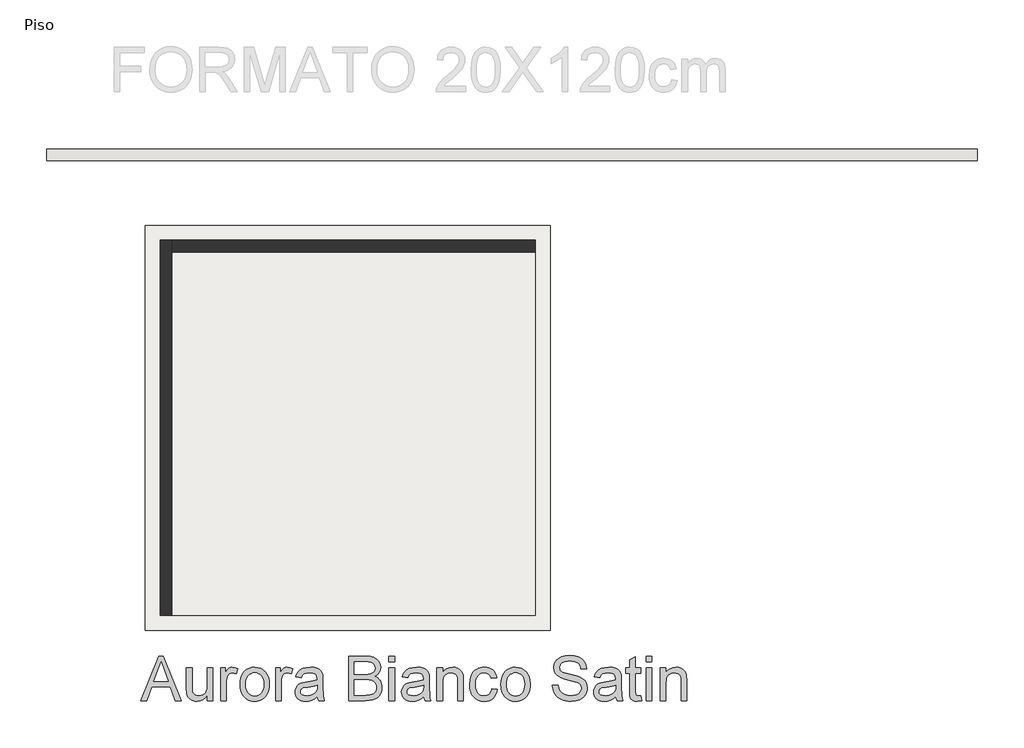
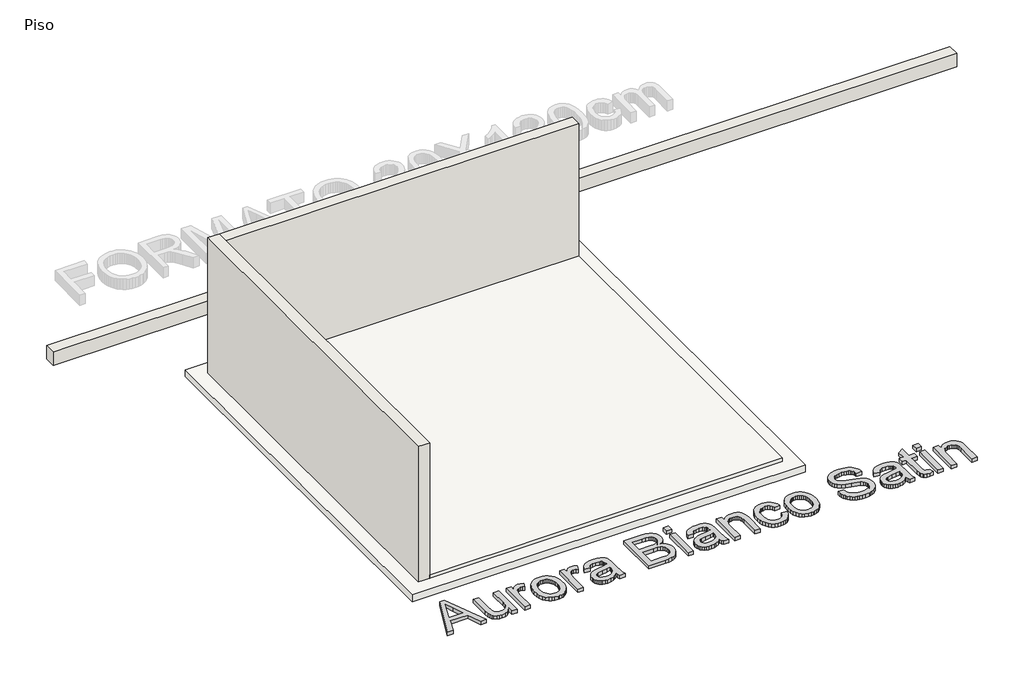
# One storey, part 1 of 2: 3 walls, 2 slabs, 1 proxy.
"""IFC4 building model written with IfcOpenShell, lengths in millimetres."""

from ifc_helpers import new_model, si_unit, frame, origin, origin_with_axes, place, context, project, spatial, polyline, outline, extrude, faceted_brep, element, save

model = new_model("IFC4")

# Units and contexts
model_context = context("Model", 3, world=origin())
ifc_project = project(units=[si_unit("LENGTHUNIT", "METRE", prefix="MILLI")], contexts=[model_context])

# Site, building, storey
site = spatial("IfcSite", under=ifc_project)
building = spatial("IfcBuilding", under=site)
storey = spatial("IfcBuildingStorey", under=building, Name="Piso", Elevation=0.0)

# Proxy
placement = place(None, origin())
element("IfcBuildingElementProxy", 1, Name="600mm Arial", ObjectType="600mm Arial", at=placement, inside=storey, context=model_context, shape_type="SweptSolid", body=[
    extrude(outline(polyline([(192663.9993038, -5545.0208617), (192904.5941286, -4942.2830008), (192968.7527486, -4942.2830008), (193209.3475734, -5545.0208617), (193129.7379097, -5545.0208617), (193060.7232474, -5356.6652802), (192812.476477, -5356.6652802), (192743.6089675, -5545.0208617), (192663.9993038, -5545.0208617)]), holes=[polyline([(192840.1412031, -5281.3230475), (193033.2056742, -5281.3230475), (192978.9062917, -5133.1401799), (192936.6734386, -5017.6252334), (192899.1494751, -5120.1907337), (192840.1412031, -5281.3230475)])]), origin_with_axes(), (0.0, 0.0, 1.0), 50.0),
    extrude(outline(polyline([(193562.9557472, -5545.0208617), (193562.9557472, -5468.9428651), (193535.6956914, -5506.3472669), (193503.9474752, -5533.0646968), (193467.7110987, -5549.0951548), (193426.9865618, -5554.4386408), (193390.2903328, -5550.6862444), (193356.1324895, -5539.4290554), (193327.4744821, -5522.5064836), (193307.2777606, -5501.757939), (193293.6845208, -5476.5580224), (193284.8369589, -5446.2813342), (193280.4223749, -5376.2366023), (193280.4223749, -5102.3852451), (193355.7646075, -5102.3852451), (193355.7646075, -5340.772778), (193356.9050417, -5388.4502845), (193360.3263443, -5417.5865386), (193371.3076218, -5443.2095195), (193390.1247859, -5462.6888712), (193415.5270376, -5474.9945239), (193446.2635783, -5479.0964081), (193478.7659526, -5474.9025534), (193509.1713995, -5462.3209892), (193534.2425575, -5442.5105437), (193550.742065, -5416.6300454), (193559.9023266, -5381.1846151), (193562.9557472, -5332.6793741), (193562.9557472, -5102.3852451), (193638.2979798, -5102.3852451), (193638.2979798, -5545.0208617), (193562.9557472, -5545.0208617)])), origin_with_axes(), (0.0, 0.0, 1.0), 50.0),
    extrude(outline(polyline([(193741.8935497, -5545.0208617), (193741.8935497, -5102.3852451), (193807.8180032, -5102.3852451), (193807.8180032, -5167.8682402), (193832.1717913, -5129.9028183), (193854.612593, -5107.535593), (193877.1269711, -5096.6094978), (193901.7014884, -5092.967466), (193939.2254519, -5098.7800015), (193977.3380266, -5116.2176081), (193952.1748981, -5183.7607424), (193925.6873944, -5172.1724596), (193899.1998908, -5168.3096986), (193876.7039068, -5172.0253068), (193856.5991558, -5183.1721312), (193840.3571657, -5200.9040434), (193829.4494645, -5224.3749147), (193820.2892028, -5266.4606149), (193817.2357823, -5312.3722879), (193817.2357823, -5545.0208617), (193741.8935497, -5545.0208617)])), origin_with_axes(), (0.0, 0.0, 1.0), 50.0),
    extrude(outline(polyline([(194005.5913638, -5323.7030534), (194009.6656569, -5266.3778415), (194021.8885362, -5216.9804866), (194042.2600017, -5175.5109887), (194070.7800533, -5141.9693478), (194099.4932431, -5120.5310245), (194131.186277, -5105.2179364), (194165.859155, -5096.0300836), (194203.5118772, -5092.967466), (194245.0779441, -5096.6968697), (194282.6616885, -5107.8850809), (194316.2631102, -5126.5320995), (194345.8822093, -5152.6379256), (194370.0566549, -5185.3196424), (194387.3241161, -5223.694333), (194397.6845928, -5267.7619975), (194401.138085, -5317.5226359), (194399.6113747, -5357.8516996), (194395.0312439, -5393.6374207), (194387.3976925, -5424.8797991), (194376.7107205, -5451.5788349), (194363.1036852, -5474.6404375), (194346.7099438, -5494.9705162), (194327.5294963, -5512.5690712), (194305.5623427, -5527.4361023), (194281.6638086, -5539.2497129), (194256.6892196, -5547.6880061), (194230.6385758, -5552.7509821), (194203.5118772, -5554.4386408), (194161.338805, -5550.7230326), (194123.4055728, -5539.5762082), (194089.7121805, -5520.9981674), (194060.2586283, -5494.9889103), (194036.3417001, -5461.9898954), (194019.2581799, -5422.4425809), (194009.0080678, -5376.3469669), (194005.5913638, -5323.7030534)]), holes=[polyline([(194080.9335964, -5323.5559006), (194083.1132972, -5360.1003783), (194089.6523997, -5391.7428284), (194100.5509038, -5418.4832509), (194115.8088096, -5440.3216459), (194134.3684562, -5457.2856044), (194155.172183, -5469.4027176), (194178.21999, -5476.6729855), (194203.5118772, -5479.0964081), (194228.6750057, -5476.6591899), (194251.6308422, -5469.3475353), (194272.3793867, -5457.1614442), (194290.9206393, -5440.1009167), (194306.178545, -5418.046391), (194317.0770491, -5390.8783057), (194323.6161516, -5358.5966606), (194325.7958524, -5321.2014558), (194323.602356, -5285.8158064), (194317.0218668, -5255.0010908), (194306.0543848, -5228.757309), (194290.6999101, -5207.0844609), (194272.0896796, -5190.1205024), (194251.3549307, -5178.0033892), (194228.4956632, -5170.7331213), (194203.5118772, -5168.3096986), (194178.21999, -5170.7239242), (194155.172183, -5177.966601), (194134.3684562, -5190.037729), (194115.8088096, -5206.9373081), (194100.5509038, -5228.7113237), (194089.6523997, -5255.405761), (194083.1132972, -5287.0206199), (194080.9335964, -5323.5559006)])]), origin_with_axes(), (0.0, 0.0, 1.0), 50.0),
    extrude(outline(polyline([(194485.8980967, -5545.0208617), (194485.8980967, -5102.3852451), (194551.8225502, -5102.3852451), (194551.8225502, -5167.8682402), (194576.1763383, -5129.9028183), (194598.61714, -5107.535593), (194621.1315181, -5096.6094978), (194645.7060354, -5092.967466), (194683.2299989, -5098.7800015), (194721.3425736, -5116.2176081), (194696.1794451, -5183.7607424), (194669.6919415, -5172.1724596), (194643.2044378, -5168.3096986), (194620.7084538, -5172.0253068), (194600.6037028, -5183.1721312), (194584.3617127, -5200.9040434), (194573.4540116, -5224.3749147), (194564.2937499, -5266.4606149), (194561.2403293, -5312.3722879), (194561.2403293, -5545.0208617), (194485.8980967, -5545.0208617)])), origin_with_axes(), (0.0, 0.0, 1.0), 50.0),
    extrude(outline(polyline([(195050.9648413, -5488.5141872), (195014.9675881, -5519.3794866), (194977.9034771, -5539.5762082), (194938.9263797, -5550.7230326), (194897.1901673, -5554.4386408), (194863.6439279, -5552.2037576), (194834.2271638, -5545.4991083), (194808.9398752, -5534.3246927), (194787.7820619, -5518.6805108), (194771.0756208, -5499.5598441), (194759.1424486, -5477.955974), (194751.9825453, -5453.8689003), (194749.5959108, -5427.2986232), (194753.2011544, -5396.0654418), (194764.0168851, -5367.70174), (194780.7003335, -5343.4215283), (194801.9087306, -5324.4388174), (194826.8327357, -5310.0914196), (194854.6630087, -5299.7171473), (194919.8516982, -5288.3863818), (194996.886188, -5276.4670052), (195050.5233829, -5262.4874894), (195050.9648413, -5245.7120704), (195045.7777052, -5212.087656), (195039.293785, -5199.6348505), (195030.2162968, -5190.0883127), (195014.5261297, -5180.5601691), (194995.41466, -5173.7543521), (194946.9278131, -5168.3096986), (194902.0462096, -5171.9333363), (194870.7026637, -5182.8042492), (194849.3287197, -5202.9090003), (194834.3559225, -5234.2341522), (194759.0136899, -5224.8163731), (194772.0918949, -5183.6135896), (194791.6080347, -5151.239974), (194819.3831253, -5126.4815158), (194857.2381826, -5108.1242042), (194903.5361317, -5096.7566506), (194956.6398977, -5092.967466), (195007.57316, -5096.3151922), (195047.9482089, -5106.3583706), (195078.390444, -5121.4599265), (195099.5252647, -5139.982785), (195113.5415687, -5162.8834392), (195122.628254, -5191.1183823), (195126.3070739, -5257.0428359), (195126.3070739, -5350.7791682), (195130.1330467, -5481.6715821), (195135.7984294, -5514.0268036), (195145.1426321, -5545.0208617), (195069.8003994, -5545.0208617), (195057.73387, -5518.8276636), (195050.9648413, -5488.5141872)]), holes=[polyline([(195050.9648413, -5337.829722), (195000.3442788, -5350.374498), (194929.4166301, -5360.9327113), (194864.5958225, -5373.1463935), (194847.7284331, -5381.4973148), (194835.2388393, -5393.0120213), (194827.5133174, -5406.8075961), (194824.9381435, -5422.0011225), (194830.5483439, -5444.405136), (194847.3789452, -5462.7624476), (194875.0620653, -5475.012918), (194913.2298223, -5479.0964081), (194953.6968418, -5474.5898537), (194989.4549717, -5461.0701904), (195018.4440729, -5441.1493803), (195038.6040063, -5417.4393858), (195047.5435387, -5393.0120213), (195050.5233829, -5359.1668777), (195050.9648413, -5337.829722)])]), origin_with_axes(), (0.0, 0.0, 1.0), 50.0),
    extrude(outline(polyline([(195474.7648997, -5545.0208617), (195474.7648997, -4942.2830008), (195704.7647231, -4942.2830008), (195768.0220322, -4946.7159788), (195817.41019, -4960.014913), (195837.4873499, -4970.071887), (195855.2652474, -4982.510897), (195870.7438823, -4997.3319428), (195883.9232548, -5014.5350246), (195901.9678666, -5052.2061409), (195907.9827373, -5091.6430908), (195902.9243598, -5127.9346497), (195887.7492275, -5162.0557047), (195862.3469758, -5191.9093286), (195826.6072399, -5215.398594), (195849.3469458, -5225.0922846), (195869.2999455, -5237.6922429), (195886.4662391, -5253.198469), (195900.8458266, -5271.6109629), (195912.2087817, -5292.3687044), (195920.3251782, -5314.9106737), (195925.1950161, -5339.2368706), (195926.8182954, -5365.3472952), (195922.3853174, -5407.3778132), (195909.0863832, -5446.3549106), (195889.2391496, -5479.5010783), (195865.161273, -5504.0388074), (195835.6755311, -5521.8075078), (195799.6047015, -5534.6465894), (195755.7715618, -5542.4272936), (195702.9988895, -5545.0208617), (195474.7648997, -5545.0208617)]), holes=[polyline([(195550.1071324, -5187.1452568), (195687.6949985, -5187.1452568), (195735.8139635, -5185.526576), (195768.0404263, -5180.6705337), (195796.1650048, -5169.5053151), (195816.3801205, -5152.7850784), (195828.5754086, -5130.767341), (195832.6405046, -5103.7096203), (195828.8513201, -5077.4428458), (195817.4837664, -5054.5605857), (195799.0528785, -5036.6999148), (195774.073691, -5025.4979081), (195735.7403871, -5019.5934021), (195677.2471499, -5017.6252334), (195550.1071324, -5017.6252334), (195550.1071324, -5187.1452568)]), polyline([(195550.1071324, -5469.6786291), (195704.6175703, -5469.6786291), (195760.5356336, -5466.7355731), (195786.4897084, -5460.2056677), (195807.8452582, -5450.3280361), (195825.2092883, -5436.1829734), (195839.1888042, -5416.8507746), (195848.4042481, -5393.1959623), (195851.4760628, -5366.0830592), (195847.8708192, -5334.5923604), (195837.0550886, -5307.5162456), (195818.1643481, -5286.3446368), (195790.3340752, -5272.5674561), (195750.9155194, -5265.0074811), (195697.2599304, -5262.4874894), (195550.1071324, -5262.4874894), (195550.1071324, -5469.6786291)])]), origin_with_axes(), (0.0, 0.0, 1.0), 50.0),
    extrude(outline(polyline([(196020.9960862, -5017.6252334), (196020.9960862, -4942.2830008), (196096.3383188, -4942.2830008), (196096.3383188, -5017.6252334), (196020.9960862, -5017.6252334)])), origin_with_axes(), (0.0, 0.0, 1.0), 50.0),
    extrude(outline(polyline([(196020.9960862, -5545.0208617), (196020.9960862, -5102.3852451), (196096.3383188, -5102.3852451), (196096.3383188, -5545.0208617), (196020.9960862, -5545.0208617)])), origin_with_axes(), (0.0, 0.0, 1.0), 50.0),
    extrude(outline(polyline([(196491.88504, -5488.5141872), (196455.8877868, -5519.3794866), (196418.8236758, -5539.5762082), (196379.8465784, -5550.7230326), (196338.110366, -5554.4386408), (196304.5641266, -5552.2037576), (196275.1473625, -5545.4991083), (196249.8600739, -5534.3246927), (196228.7022607, -5518.6805108), (196211.9958195, -5499.5598441), (196200.0626473, -5477.955974), (196192.902744, -5453.8689003), (196190.5161096, -5427.2986232), (196194.1213531, -5396.0654418), (196204.9370838, -5367.70174), (196221.6205322, -5343.4215283), (196242.8289293, -5324.4388174), (196267.7529344, -5310.0914196), (196295.5832074, -5299.7171473), (196360.7718969, -5288.3863818), (196437.8063867, -5276.4670052), (196491.4435816, -5262.4874894), (196491.88504, -5245.7120704), (196486.6979039, -5212.087656), (196480.2139837, -5199.6348505), (196471.1364955, -5190.0883127), (196455.4463284, -5180.5601691), (196436.3348587, -5173.7543521), (196387.8480118, -5168.3096986), (196342.9664084, -5171.9333363), (196311.6228624, -5182.8042492), (196290.2489184, -5202.9090003), (196275.2761212, -5234.2341522), (196199.9338886, -5224.8163731), (196213.0120936, -5183.6135896), (196232.5282334, -5151.239974), (196260.303324, -5126.4815158), (196298.1583813, -5108.1242042), (196344.4563304, -5096.7566506), (196397.5600964, -5092.967466), (196448.4933587, -5096.3151922), (196488.8684076, -5106.3583706), (196519.3106427, -5121.4599265), (196540.4454634, -5139.982785), (196554.4617674, -5162.8834392), (196563.5484527, -5191.1183823), (196567.2272726, -5257.0428359), (196567.2272726, -5350.7791682), (196571.0532454, -5481.6715821), (196576.7186281, -5514.0268036), (196586.0628308, -5545.0208617), (196510.7205982, -5545.0208617), (196498.6540687, -5518.8276636), (196491.88504, -5488.5141872)]), holes=[polyline([(196491.88504, -5337.829722), (196441.2644775, -5350.374498), (196370.3368288, -5360.9327113), (196305.5160212, -5373.1463935), (196288.6486318, -5381.4973148), (196276.159038, -5393.0120213), (196268.4335161, -5406.8075961), (196265.8583422, -5422.0011225), (196271.4685426, -5444.405136), (196288.2991439, -5462.7624476), (196315.982264, -5475.012918), (196354.150021, -5479.0964081), (196394.6170405, -5474.5898537), (196430.3751704, -5461.0701904), (196459.3642716, -5441.1493803), (196479.524205, -5417.4393858), (196488.4637374, -5393.0120213), (196491.4435816, -5359.1668777), (196491.88504, -5337.829722)])]), origin_with_axes(), (0.0, 0.0, 1.0), 50.0),
    extrude(outline(polyline([(196670.8228425, -5545.0208617), (196670.8228425, -5102.3852451), (196746.1650751, -5102.3852451), (196746.1650751, -5164.1894203), (196772.339879, -5133.0298153), (196803.7753955, -5110.7729546), (196840.4716245, -5097.4188382), (196882.4285661, -5092.967466), (196919.5662535, -5096.5543155), (196953.576944, -5107.3148638), (196981.9406458, -5123.9063418), (197002.1373673, -5144.9859801), (197015.8409716, -5170.4985965), (197024.7253218, -5200.3890086), (197028.6984474, -5273.2296436), (197028.6984474, -5545.0208617), (196953.3562148, -5545.0208617), (196953.3562148, -5283.3831867), (196951.185711, -5244.4244834), (196944.6741997, -5216.7229692), (196932.6628525, -5196.8757355), (196913.9928413, -5181.479874), (196890.0621175, -5171.6022425), (196862.2686327, -5168.3096986), (196839.3909712, -5170.1583056), (196818.1411874, -5175.7041267), (196798.5192815, -5184.9471619), (196780.5252534, -5197.887411), (196765.4926754, -5215.9964022), (196754.7551197, -5240.7456635), (196748.3125862, -5272.1351947), (196746.1650751, -5310.164996), (196746.1650751, -5545.0208617), (196670.8228425, -5545.0208617)])), origin_with_axes(), (0.0, 0.0, 1.0), 50.0),
    extrude(outline(polyline([(197414.8273895, -5384.9186174), (197490.1696221, -5394.3363965), (197481.9750507, -5429.8875928), (197469.1635602, -5461.3461019), (197451.7351507, -5488.7119238), (197429.6898221, -5511.9850585), (197403.9564765, -5530.5585007), (197375.464016, -5543.8252452), (197344.2124405, -5551.7852919), (197310.2017501, -5554.4386408), (197267.9459044, -5550.7368282), (197230.0586574, -5539.6313905), (197196.5400091, -5521.1223276), (197167.3899595, -5495.2096395), (197143.7949281, -5462.38077), (197126.9413342, -5423.1231626), (197116.8291778, -5377.4368173), (197113.4584591, -5325.3217342), (197119.2158123, -5258.2752405), (197126.4125038, -5228.1043184), (197136.487872, -5200.1682794), (197149.5108946, -5175.0281436), (197165.5505496, -5153.2449309), (197184.6068369, -5134.8186415), (197206.6797566, -5119.7492753), (197230.7714288, -5108.0322337), (197255.8839735, -5099.6629183), (197282.0173907, -5094.6413291), (197309.1716805, -5092.967466), (197342.5983583, -5095.2667285), (197372.8336598, -5102.1645159), (197399.8775849, -5113.6608282), (197423.7301338, -5129.7556655), (197443.9866361, -5150.0811458), (197460.2424218, -5174.2693869), (197472.4974908, -5202.3203891), (197480.751843, -5234.2341522), (197405.4096104, -5243.6519312), (197391.7427943, -5210.781675), (197370.4608209, -5187.2188332), (197342.7409125, -5173.0369823), (197309.7602917, -5168.3096986), (197284.1603033, -5170.6365522), (197261.0711096, -5177.6171131), (197240.4927105, -5189.2513812), (197222.425106, -5205.5393565), (197207.7144247, -5226.8581182), (197197.2067953, -5253.5847451), (197190.9022176, -5285.7192374), (197188.8006917, -5323.261595), (197190.8562323, -5361.3695712), (197197.0228543, -5393.876544), (197207.3005575, -5420.7825134), (197221.689342, -5442.0874794), (197239.3982616, -5458.2788857), (197259.6363698, -5469.844176), (197282.4036668, -5476.7833501), (197307.7001525, -5479.0964081), (197346.7140381, -5473.3206608), (197363.5860261, -5466.1009767), (197378.7013776, -5455.9934188), (197391.6370282, -5442.8876228), (197401.9699138, -5426.6732238), (197409.7000342, -5407.350222), (197414.8273895, -5384.9186174)])), origin_with_axes(), (0.0, 0.0, 1.0), 50.0),
    extrude(outline(polyline([(197537.2585175, -5323.7030534), (197541.3328106, -5266.3778415), (197553.5556899, -5216.9804866), (197573.9271554, -5175.5109887), (197602.447207, -5141.9693478), (197631.1603968, -5120.5310245), (197662.8534307, -5105.2179364), (197697.5263087, -5096.0300836), (197735.1790309, -5092.967466), (197776.7450978, -5096.6968697), (197814.3288422, -5107.8850809), (197847.9302639, -5126.5320995), (197877.549363, -5152.6379256), (197901.7238086, -5185.3196424), (197918.9912698, -5223.694333), (197929.3517465, -5267.7619975), (197932.8052387, -5317.5226359), (197931.2785284, -5357.8516996), (197926.6983976, -5393.6374207), (197919.0648462, -5424.8797991), (197908.3778742, -5451.5788349), (197894.7708389, -5474.6404375), (197878.3770975, -5494.9705162), (197859.19665, -5512.5690712), (197837.2294964, -5527.4361023), (197813.3309623, -5539.2497129), (197788.3563733, -5547.6880061), (197762.3057295, -5552.7509821), (197735.1790309, -5554.4386408), (197693.0059587, -5550.7230326), (197655.0727265, -5539.5762082), (197621.3793342, -5520.9981674), (197591.925782, -5494.9889103), (197568.0088538, -5461.9898954), (197550.9253336, -5422.4425809), (197540.6752215, -5376.3469669), (197537.2585175, -5323.7030534)]), holes=[polyline([(197612.6007501, -5323.5559006), (197614.7804509, -5360.1003783), (197621.3195534, -5391.7428284), (197632.2180575, -5418.4832509), (197647.4759633, -5440.3216459), (197666.0356099, -5457.2856044), (197686.8393367, -5469.4027176), (197709.8871437, -5476.6729855), (197735.1790309, -5479.0964081), (197760.3421594, -5476.6591899), (197783.2979959, -5469.3475353), (197804.0465404, -5457.1614442), (197822.587793, -5440.1009167), (197837.8456987, -5418.046391), (197848.7442028, -5390.8783057), (197855.2833053, -5358.5966606), (197857.4630061, -5321.2014558), (197855.2695097, -5285.8158064), (197848.6890205, -5255.0010908), (197837.7215385, -5228.757309), (197822.3670638, -5207.0844609), (197803.7568333, -5190.1205024), (197783.0220844, -5178.0033892), (197760.1628169, -5170.7331213), (197735.1790309, -5168.3096986), (197709.8871437, -5170.7239242), (197686.8393367, -5177.966601), (197666.0356099, -5190.037729), (197647.4759633, -5206.9373081), (197632.2180575, -5228.7113237), (197621.3195534, -5255.405761), (197614.7804509, -5287.0206199), (197612.6007501, -5323.5559006)])]), origin_with_axes(), (0.0, 0.0, 1.0), 50.0),
    extrude(outline(polyline([(198234.1741692, -5337.829722), (198309.5164018, -5337.829722), (198318.1616287, -5379.6395108), (198333.7966135, -5413.245531), (198358.1871897, -5439.9169757), (198393.0991911, -5460.9230376), (198435.7735025, -5474.5530655), (198483.4510091, -5479.0964081), (198525.4263447, -5475.6567115), (198562.1777561, -5465.3376215), (198591.9578036, -5449.0036609), (198613.0190478, -5427.5193524), (198625.5454297, -5402.8528646), (198629.7208904, -5376.9723663), (198626.5938934, -5351.7540555), (198617.2129025, -5329.9570473), (198598.1566152, -5311.3606124), (198566.0037288, -5295.7440218), (198456.3013178, -5266.9756497), (198384.2884173, -5247.9377565), (198338.2111974, -5229.8195682), (198300.705628, -5204.4724987), (198274.1261538, -5173.7543521), (198258.2888339, -5138.327316), (198253.0097273, -5098.8535779), (198254.6422037, -5076.4173748), (198259.5396327, -5054.7261326), (198267.7020145, -5033.7798515), (198279.129349, -5013.5785314), (198293.6928775, -4994.9453084), (198311.2638413, -4978.7033183), (198331.8422404, -4964.8525612), (198355.4280748, -4953.393037), (198408.4398703, -4937.9971755), (198467.1170485, -4932.8652217), (198530.6870573, -4938.2362988), (198586.3108149, -4954.3495302), (198610.6462089, -4966.3516803), (198632.0017587, -4980.8738221), (198650.3774644, -4997.9159555), (198665.7733259, -5017.4780806), (198678.0697816, -5038.9899803), (198687.1472698, -5061.8814374), (198693.0057906, -5086.152452), (198695.6453439, -5111.8030242), (198620.3031113, -5111.8030242), (198615.263128, -5087.7619358), (198606.4707483, -5066.8478444), (198593.9259722, -5049.0607499), (198577.6287999, -5034.4006524), (198557.2757285, -5022.9411282), (198532.5632555, -5014.7557538), (198503.4913808, -5009.8445292), (198470.0601045, -5008.2074543), (198435.5619704, -5009.8261351), (198406.0854255, -5014.6821774), (198381.6304699, -5022.7755813), (198362.1971035, -5034.1063468), (198347.3898532, -5047.7271777), (198336.8132458, -5062.6907778), (198330.4672814, -5078.9971472), (198328.3519599, -5096.646286), (198329.8510791, -5111.8306153), (198334.3484364, -5125.598599), (198341.8440321, -5137.950237), (198352.337866, -5148.8855293), (198368.8557676, -5159.2414074), (198394.8650247, -5169.7076502), (198475.3576052, -5190.9712295), (198558.4253597, -5211.1679511), (198608.6780403, -5228.7894986), (198651.6282632, -5256.1231309), (198668.2335367, -5272.190377), (198681.5922517, -5289.8579098), (198691.8607579, -5309.0337588), (198699.1954052, -5329.6259535), (198705.063123, -5375.0593799), (198703.3754643, -5398.6268202), (198698.3124884, -5421.5044818), (198689.8741951, -5443.6923646), (198678.0605845, -5465.1904687), (198663.0785903, -5485.1664611), (198645.135146, -5502.7880086), (198624.2302516, -5518.0551114), (198600.3639072, -5530.9677695), (198574.2304899, -5541.2362757), (198546.5243772, -5548.5709229), (198486.3940651, -5554.4386408), (198447.8538275, -5552.8567482), (198412.5785427, -5548.1110704), (198380.5682106, -5540.2016075), (198351.8228312, -5529.1283595), (198326.1676606, -5514.8729322), (198303.4279548, -5497.4169315), (198283.6037137, -5476.7603575), (198266.6949375, -5452.9032101), (198253.0741067, -5426.6180415), (198243.1137016, -5398.677404), (198236.8137225, -5369.0812975), (198234.1741692, -5337.829722)])), origin_with_axes(), (0.0, 0.0, 1.0), 50.0),
    extrude(outline(polyline([(199091.1920651, -5488.5141872), (199055.1948119, -5519.3794866), (199018.1307009, -5539.5762082), (198979.1536035, -5550.7230326), (198937.4173911, -5554.4386408), (198903.8711517, -5552.2037576), (198874.4543877, -5545.4991083), (198849.167099, -5534.3246927), (198828.0092858, -5518.6805108), (198811.3028447, -5499.5598441), (198799.3696725, -5477.955974), (198792.2097691, -5453.8689003), (198789.8231347, -5427.2986232), (198793.4283782, -5396.0654418), (198804.2441089, -5367.70174), (198820.9275574, -5343.4215283), (198842.1359544, -5324.4388174), (198867.0599596, -5310.0914196), (198894.8902325, -5299.7171473), (198960.078922, -5288.3863818), (199037.1134118, -5276.4670052), (199090.7506067, -5262.4874894), (199091.1920651, -5245.7120704), (199086.004929, -5212.087656), (199079.5210088, -5199.6348505), (199070.4435206, -5190.0883127), (199054.7533535, -5180.5601691), (199035.6418839, -5173.7543521), (198987.1550369, -5168.3096986), (198942.2734335, -5171.9333363), (198910.9298875, -5182.8042492), (198889.5559436, -5202.9090003), (198874.5831464, -5234.2341522), (198799.2409138, -5224.8163731), (198812.3191187, -5183.6135896), (198831.8352585, -5151.239974), (198859.6103492, -5126.4815158), (198897.4654065, -5108.1242042), (198943.7633556, -5096.7566506), (198996.8671216, -5092.967466), (199047.8003838, -5096.3151922), (199088.1754328, -5106.3583706), (199118.6176679, -5121.4599265), (199139.7524885, -5139.982785), (199153.7687925, -5162.8834392), (199162.8554778, -5191.1183823), (199166.5342977, -5257.0428359), (199166.5342977, -5350.7791682), (199170.3602705, -5481.6715821), (199176.0256532, -5514.0268036), (199185.3698559, -5545.0208617), (199110.0276233, -5545.0208617), (199097.9610938, -5518.8276636), (199091.1920651, -5488.5141872)]), holes=[polyline([(199091.1920651, -5337.829722), (199040.5715026, -5350.374498), (198969.6438539, -5360.9327113), (198904.8230464, -5373.1463935), (198887.9556569, -5381.4973148), (198875.4660632, -5393.0120213), (198867.7405413, -5406.8075961), (198865.1653673, -5422.0011225), (198870.7755677, -5444.405136), (198887.606169, -5462.7624476), (198915.2892891, -5475.012918), (198953.4570461, -5479.0964081), (198993.9240656, -5474.5898537), (199029.6821955, -5461.0701904), (199058.6712968, -5441.1493803), (199078.8312301, -5417.4393858), (199087.7707626, -5393.0120213), (199090.7506067, -5359.1668777), (199091.1920651, -5337.829722)])]), origin_with_axes(), (0.0, 0.0, 1.0), 50.0),
    extrude(outline(polyline([(199430.2321119, -5482.1866169), (199439.649891, -5547.2281537), (199383.2903693, -5554.4386408), (199347.1275692, -5551.3116438), (199320.1618189, -5541.9306529), (199301.1055316, -5527.4728905), (199288.6711201, -5509.115579), (199281.828515, -5477.588092), (199279.5476467, -5423.6198033), (199279.5476467, -5177.7274777), (199223.0409722, -5177.7274777), (199223.0409722, -5102.3852451), (199279.5476467, -5102.3852451), (199279.5476467, -4994.8165497), (199354.8898793, -4950.5235575), (199354.8898793, -5102.3852451), (199430.2321119, -5102.3852451), (199430.2321119, -5177.7274777), (199354.8898793, -5177.7274777), (199354.8898793, -5421.4125113), (199358.8630048, -5460.26085), (199371.7388746, -5474.0196366), (199382.6097876, -5477.8272153), (199397.4170379, -5479.0964081), (199430.2321119, -5482.1866169)])), origin_with_axes(), (0.0, 0.0, 1.0), 50.0),
    extrude(outline(polyline([(199505.5743445, -5017.6252334), (199505.5743445, -4942.2830008), (199580.9165771, -4942.2830008), (199580.9165771, -5017.6252334), (199505.5743445, -5017.6252334)])), origin_with_axes(), (0.0, 0.0, 1.0), 50.0),
    extrude(outline(polyline([(199505.5743445, -5545.0208617), (199505.5743445, -5102.3852451), (199580.9165771, -5102.3852451), (199580.9165771, -5545.0208617), (199505.5743445, -5545.0208617)])), origin_with_axes(), (0.0, 0.0, 1.0), 50.0),
    extrude(outline(polyline([(199693.929926, -5545.0208617), (199693.929926, -5102.3852451), (199769.2721586, -5102.3852451), (199769.2721586, -5164.1894203), (199795.4469626, -5133.0298153), (199826.8824791, -5110.7729546), (199863.5787081, -5097.4188382), (199905.5356496, -5092.967466), (199942.6733371, -5096.5543155), (199976.6840275, -5107.3148638), (200005.0477293, -5123.9063418), (200025.2444509, -5144.9859801), (200038.9480552, -5170.4985965), (200047.8324054, -5200.3890086), (200051.8055309, -5273.2296436), (200051.8055309, -5545.0208617), (199976.4632983, -5545.0208617), (199976.4632983, -5283.3831867), (199974.2927945, -5244.4244834), (199967.7812832, -5216.7229692), (199955.7699361, -5196.8757355), (199937.0999248, -5181.479874), (199913.169201, -5171.6022425), (199885.3757163, -5168.3096986), (199862.4980547, -5170.1583056), (199841.248271, -5175.7041267), (199821.6263651, -5184.9471619), (199803.632337, -5197.887411), (199788.599759, -5215.9964022), (199777.8622032, -5240.7456635), (199771.4196698, -5272.1351947), (199769.2721586, -5310.164996), (199769.2721586, -5545.0208617), (199693.929926, -5545.0208617)])), origin_with_axes(), (0.0, 0.0, 1.0), 50.0),
])

# Slabs
element("IfcSlab", 2, ObjectType="5cm - Porcelanato Aurora Bianco Satin  - Acetinado 20x120", at=placement, inside=storey, context=model_context, shape_type="SweptSolid", body=[
    extrude(outline(polyline([(198003.8814154, 531.1127696), (198003.8814154, -4389.4872304), (193083.2814154, -4389.4872304), (193083.2814154, 531.1127696), (198003.8814154, 531.1127696)])), origin_with_axes(), (0.0, 0.0, 1.0), 50.0),
])
element("IfcSlab", 3, ObjectType="CO02 - Concreto Estrutural Simples", at=placement, inside=storey, context=model_context, shape_type="SweptSolid", body=[
    extrude(outline(polyline([(198203.8814154, 889.9127696), (198203.8814154, -4589.4872304), (192724.4814154, -4589.4872304), (192724.4814154, 889.9127696), (198203.8814154, 889.9127696)])), frame((0.0, 0.0, -100.0), z_axis=(0.0, 0.0, 1.0), x_axis=(1.0, 0.0, 0.0)), (0.0, 0.0, 1.0), 100.0),
])

# Walls
element("IfcWall", 4, ObjectType="CO01 - Bloco de Concreto 14cm / Pintura Branca Simples", at=placement, inside=storey, context=model_context, shape_type="SweptSolid", body=[
    extrude(outline(polyline([(203986.699165, 1765.7486968), (191386.699165, 1765.7486968), (191386.699165, 1924.5486968), (203986.699165, 1924.5486968), (203986.699165, 1765.7486968)])), origin_with_axes(), (0.0, 0.0, 1.0), 200.0),
])
element("IfcWall", 5, ObjectType="CO01 - Bloco de Concreto 14cm / Pintura Branca Simples", at=placement, inside=storey, context=model_context, shape_type="Brep", body=[
    faceted_brep([(193083.2814154, -4389.4872304, 0.0), (193083.2814154, 531.1127696, 0.0), (193083.2814154, 689.9127696, 0.0), (193083.2814154, 689.9127696, 2000.0), (193083.2814154, 531.1127696, 2000.0), (193083.2814154, -4389.4872304, 2000.0), (192924.4814154, -4389.4872304, 0.0), (192924.4814154, -4389.4872304, 2000.0), (192924.4814154, 689.9127696, 2000.0), (192924.4814154, 689.9127696, 0.0)], [[[0, 1, 2, 3, 4, 5]], [[6, 7, 8, 9]], [[2, 1, 0, 6, 9]], [[5, 4, 3, 8, 7]], [[0, 5, 7, 6]], [[3, 2, 9, 8]]]),
])
element("IfcWall", 6, ObjectType="CO01 - Bloco de Concreto 14cm / Pintura Branca Simples", at=placement, inside=storey, context=model_context, shape_type="SweptSolid", body=[
    extrude(outline(polyline([(198003.8814154, 531.1127696), (193083.2814154, 531.1127696), (193083.2814154, 689.9127696), (198003.8814154, 689.9127696), (198003.8814154, 531.1127696)])), origin_with_axes(), (0.0, 0.0, 1.0), 2000.0),
])

save(model, "model.ifc")
